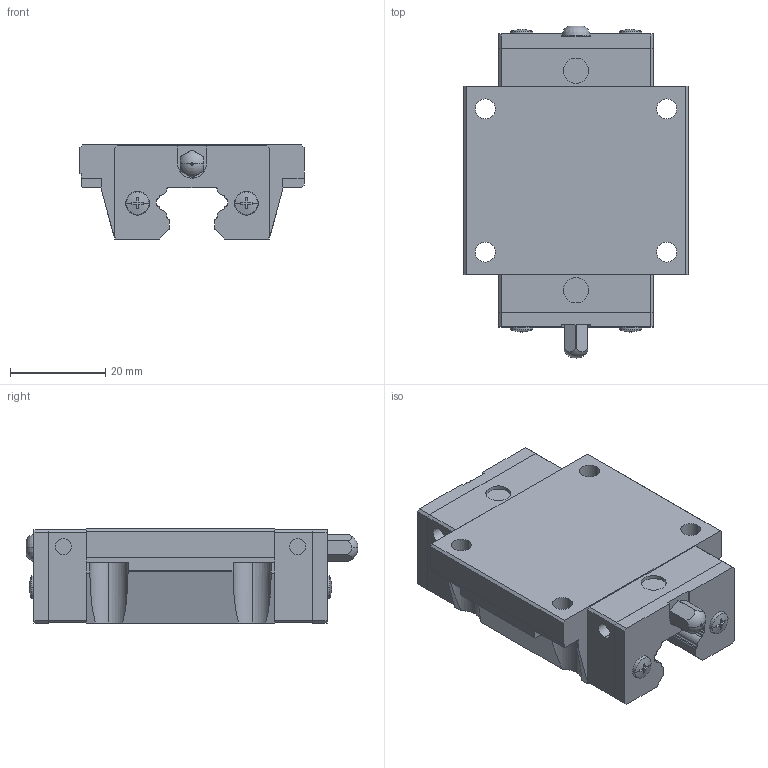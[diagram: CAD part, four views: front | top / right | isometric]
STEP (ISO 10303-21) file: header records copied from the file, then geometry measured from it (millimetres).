
FILE_DESCRIPTION(('FreeCAD Model'),'2;1');
FILE_NAME('Open CASCADE Shape Model','2021-05-03T09:25:57',('Author'),( ''),'Open CASCADE STEP processor 7.5','FreeCAD','Unknown');
FILE_SCHEMA(('AUTOMOTIVE_DESIGN { 1 0 10303 214 1 1 1 1 }'));
Length unit declared in the file: millimetre
Products named in the file (1): HGW15CC Z0 H SS
Bounding box: 47 x 69.56 x 19.7 mm (x, y, z)
Volume: 35990.1 mm3; surface area: 11336.6 mm2
Topology: 1 solids, 5 shells, 316 faces, 849 edges, 559 vertices
Faces by surface type: plane 182, cylinder 110, cone 20, sphere 2, revolution 2
Entity records: 23933 total; most frequent: CARTESIAN_POINT 6313, DIRECTION 3088, LINE 1886, VECTOR 1886, ORIENTED_EDGE 1698, PCURVE 1698, DEFINITIONAL_REPRESENTATION 1698, EDGE_CURVE 849
